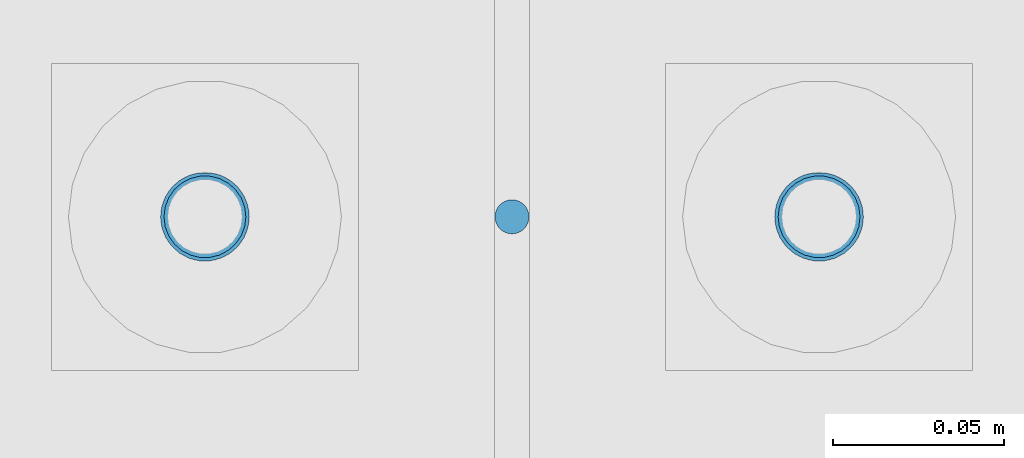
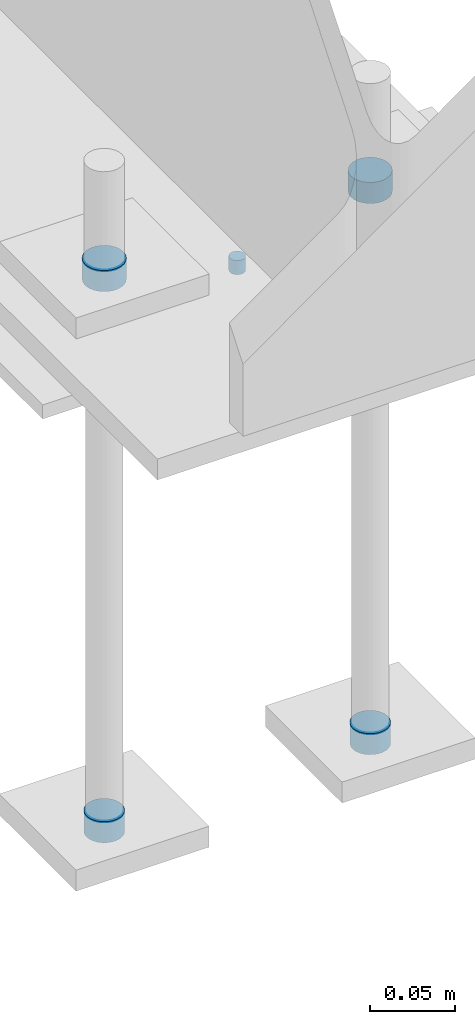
# One storey, part 96 of 123: 5 mechanical fasteners, 1 element without a shape of its own.
"""IFC2X3 building model written with IfcOpenShell, lengths in millimetres."""

from ifc_helpers import new_model, si_unit, frame, origin_with_axes, origin_2d_with_axis, place, context, subcontext, project, spatial, circle, extrude, source, transform, mapped, material, type_object, element, aggregate, save


model = new_model("IFC2X3")

# Units and contexts
model_context = context("Model", 3, precision=1e-05, world=origin_with_axes())
body_context = subcontext(model_context, "Body", "Model", "MODEL_VIEW")
ifc_project = project(units=[si_unit("LENGTHUNIT", "METRE", prefix="MILLI"), si_unit("AREAUNIT", "SQUARE_METRE"), si_unit("VOLUMEUNIT", "CUBIC_METRE"), si_unit("MASSUNIT", "GRAM", prefix="KILO"), si_unit("TIMEUNIT", "SECOND"), si_unit("PLANEANGLEUNIT", "RADIAN"), si_unit("SOLIDANGLEUNIT", "STERADIAN"), si_unit("THERMODYNAMICTEMPERATUREUNIT", "DEGREE_CELSIUS"), si_unit("LUMINOUSINTENSITYUNIT", "LUMEN")], contexts=[model_context])

# Site, building, storey
site_placement = place(None, origin_with_axes())
site = spatial("IfcSite", under=ifc_project, at=site_placement, Name="Undefined", CompositionType="ELEMENT")
building_placement = place(site_placement, origin_with_axes())
building = spatial("IfcBuilding", under=site, at=building_placement, Name="Undefined", CompositionType="ELEMENT")
storey_placement = place(building_placement, origin_with_axes())
storey = spatial("IfcBuildingStorey", under=building, at=storey_placement, Name="Undefined", CompositionType="ELEMENT", Elevation=0.0)

# Assembly, mechanical fasteners
assembly_placement = place(storey_placement, origin_with_axes())
assembly = element("IfcElementAssembly", 1, at=assembly_placement, inside=storey, Name="Steel Assembly", AssemblyPlace="NOTDEFINED", PredefinedType="RIGID_FRAME")
ifc_material = material(Name="6.8")
discrete_accessory_type = type_object("IfcDiscreteAccessoryType", Name="Bolt assembly")
shared_shape_1 = source(origin_with_axes(), body_context, "Body", "SweptSolid", [
    extrude(circle(Radius=13.0, at=origin_2d_with_axis()), frame((0.0, -15.0, 0.0), z_axis=(0.0, 1.0, 0.0), x_axis=(1.0, 0.0, 0.0)), (0.0, 0.0, 1.0), 15.1),
])
mechanical_fastener_1_placement = place(assembly_placement, frame((4089.99715044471, 0.0, -235.0), z_axis=(0.0, -1.0, 0.0), x_axis=(-1.0, 0.0, 0.0)))
mechanical_fastener_1 = element("IfcMechanicalFastener", 2, at=mechanical_fastener_1_placement, type_object=discrete_accessory_type, material=ifc_material, Name="Bolt assembly", NominalDiameter=24.0, NominalLength=15.0, context=body_context, shape_type="MappedRepresentation", body=[
    mapped(shared_shape_1, transform((0.0, 0.0, 0.0))),
])
mechanical_fastener_2_placement = place(assembly_placement, frame((4269.99715044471, 0.0, -235.0), z_axis=(0.0, -1.0, 0.0), x_axis=(-1.0, 0.0, 0.0)))
mechanical_fastener_2 = element("IfcMechanicalFastener", 3, at=mechanical_fastener_2_placement, type_object=discrete_accessory_type, material=ifc_material, Name="Bolt assembly", NominalDiameter=24.0, NominalLength=15.0, context=body_context, shape_type="MappedRepresentation", body=[
    mapped(shared_shape_1, transform((0.0, 0.0, 0.0))),
])
shared_shape_2 = source(origin_with_axes(), body_context, "Body", "SweptSolid", [
    extrude(circle(Radius=12.0, at=origin_2d_with_axis()), frame((0.0, -15.0, 0.0), z_axis=(0.0, 1.0, 0.0), x_axis=(1.0, 0.0, 0.0)), (0.0, 0.0, 1.0), 15.1),
])
mechanical_fastener_3_placement = place(assembly_placement, frame((4089.99715044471, 0.0, -630.0), z_axis=(0.0, -1.0, 0.0), x_axis=(-1.0, 0.0, 0.0)))
mechanical_fastener_3 = element("IfcMechanicalFastener", 4, at=mechanical_fastener_3_placement, type_object=discrete_accessory_type, material=ifc_material, Name="Bolt assembly", NominalDiameter=22.0, NominalLength=15.0, context=body_context, shape_type="MappedRepresentation", body=[
    mapped(shared_shape_2, transform((0.0, 0.0, 0.0))),
])
mechanical_fastener_4_placement = place(assembly_placement, frame((4269.99715044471, 0.0, -630.0), z_axis=(0.0, -1.0, 0.0), x_axis=(-1.0, 0.0, 0.0)))
mechanical_fastener_4 = element("IfcMechanicalFastener", 5, at=mechanical_fastener_4_placement, type_object=discrete_accessory_type, material=ifc_material, Name="Bolt assembly", NominalDiameter=22.0, NominalLength=15.0, context=body_context, shape_type="MappedRepresentation", body=[
    mapped(shared_shape_2, transform((0.0, 0.0, 0.0))),
])
shared_shape_3 = source(origin_with_axes(), body_context, "Body", "SweptSolid", [
    extrude(circle(Radius=5.0, at=origin_2d_with_axis()), frame((0.0, 0.0, 0.0), z_axis=(0.0, 1.0, 0.0), x_axis=(1.0, 0.0, 0.0)), (0.0, 0.0, 1.0), 10.1),
])
mechanical_fastener_5_placement = place(assembly_placement, frame((4180.00000007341, 0.0, -250.0), z_axis=(1.0, 0.0, 0.0), x_axis=(0.0, -1.0, 0.0)))
mechanical_fastener_5 = element("IfcMechanicalFastener", 6, at=mechanical_fastener_5_placement, type_object=discrete_accessory_type, material=ifc_material, Name="Bolt assembly", NominalDiameter=8.0, NominalLength=10.0, context=body_context, shape_type="MappedRepresentation", body=[
    mapped(shared_shape_3, transform((0.0, 0.0, 0.0))),
])
aggregate(assembly, [mechanical_fastener_1, mechanical_fastener_2, mechanical_fastener_3, mechanical_fastener_4, mechanical_fastener_5])

save(model, "model.ifc")
